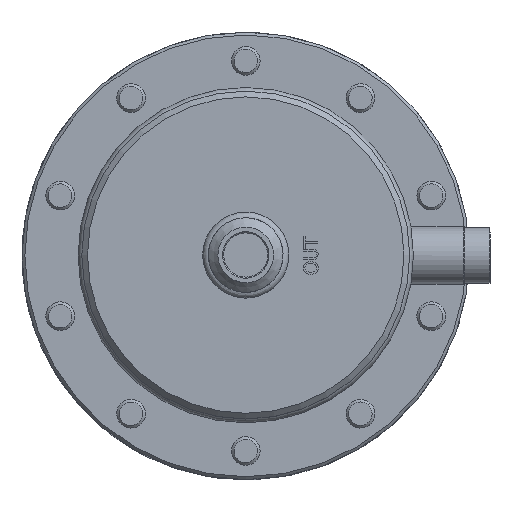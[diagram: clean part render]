
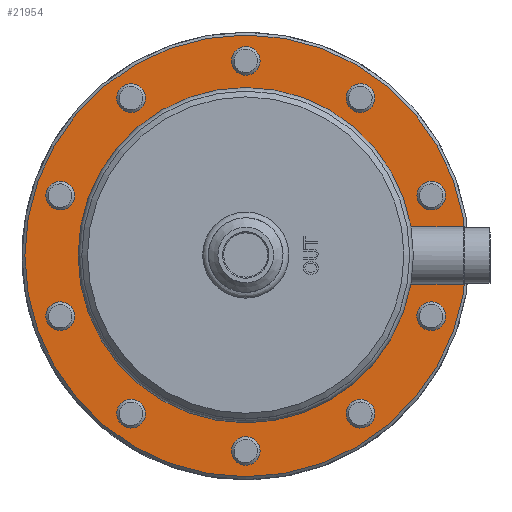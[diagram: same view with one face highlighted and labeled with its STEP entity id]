
A CAD part, top view. The second image highlights one B-rep face of the part: STEP entity #21954.
In plain terms, the highlighted planar face has unit normal (0, 0, 1).
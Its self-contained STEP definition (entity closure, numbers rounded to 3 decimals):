
#1150=CIRCLE('',#23394,58.207);
#1186=CIRCLE('',#23443,5.);
#1207=CIRCLE('',#23491,5.);
#1228=CIRCLE('',#23539,5.);
#1249=CIRCLE('',#23587,5.);
#1270=CIRCLE('',#23635,5.);
#1291=CIRCLE('',#23683,5.);
#1312=CIRCLE('',#23731,5.);
#1333=CIRCLE('',#23779,5.);
#1354=CIRCLE('',#23827,5.);
#1404=CIRCLE('',#23939,5.);
#1420=CIRCLE('',#23980,77.);
#4869=FACE_BOUND('',#7718,.T.);
#4870=FACE_BOUND('',#7719,.T.);
#4871=FACE_BOUND('',#7720,.T.);
#4872=FACE_BOUND('',#7721,.T.);
#4873=FACE_BOUND('',#7722,.T.);
#4874=FACE_BOUND('',#7723,.T.);
#4875=FACE_BOUND('',#7724,.T.);
#4876=FACE_BOUND('',#7725,.T.);
#4877=FACE_BOUND('',#7726,.T.);
#4878=FACE_BOUND('',#7727,.T.);
#4879=FACE_BOUND('',#7728,.T.);
#6164=FACE_OUTER_BOUND('',#7717,.T.);
#7717=EDGE_LOOP('',(#19915));
#7718=EDGE_LOOP('',(#19916));
#7719=EDGE_LOOP('',(#19917));
#7720=EDGE_LOOP('',(#19918));
#7721=EDGE_LOOP('',(#19919));
#7722=EDGE_LOOP('',(#19920));
#7723=EDGE_LOOP('',(#19921));
#7724=EDGE_LOOP('',(#19922));
#7725=EDGE_LOOP('',(#19923));
#7726=EDGE_LOOP('',(#19924));
#7727=EDGE_LOOP('',(#19925));
#7728=EDGE_LOOP('',(#19926));
#10070=VERTEX_POINT('',#42643);
#10101=VERTEX_POINT('',#42723);
#10132=VERTEX_POINT('',#42850);
#10163=VERTEX_POINT('',#42977);
#10194=VERTEX_POINT('',#43104);
#10225=VERTEX_POINT('',#43231);
#10256=VERTEX_POINT('',#43358);
#10287=VERTEX_POINT('',#43485);
#10318=VERTEX_POINT('',#43612);
#10349=VERTEX_POINT('',#43739);
#10408=VERTEX_POINT('',#43958);
#10436=VERTEX_POINT('',#44075);
#13088=EDGE_CURVE('',#10070,#10070,#1150,.T.);
#13124=EDGE_CURVE('',#10101,#10101,#1186,.T.);
#13169=EDGE_CURVE('',#10132,#10132,#1207,.T.);
#13214=EDGE_CURVE('',#10163,#10163,#1228,.T.);
#13259=EDGE_CURVE('',#10194,#10194,#1249,.T.);
#13304=EDGE_CURVE('',#10225,#10225,#1270,.T.);
#13349=EDGE_CURVE('',#10256,#10256,#1291,.T.);
#13394=EDGE_CURVE('',#10287,#10287,#1312,.T.);
#13439=EDGE_CURVE('',#10318,#10318,#1333,.T.);
#13484=EDGE_CURVE('',#10349,#10349,#1354,.T.);
#13558=EDGE_CURVE('',#10408,#10408,#1404,.T.);
#13598=EDGE_CURVE('',#10436,#10436,#1420,.T.);
#19915=ORIENTED_EDGE('',*,*,#13598,.F.);
#19916=ORIENTED_EDGE('',*,*,#13088,.T.);
#19917=ORIENTED_EDGE('',*,*,#13124,.T.);
#19918=ORIENTED_EDGE('',*,*,#13169,.T.);
#19919=ORIENTED_EDGE('',*,*,#13214,.T.);
#19920=ORIENTED_EDGE('',*,*,#13259,.T.);
#19921=ORIENTED_EDGE('',*,*,#13304,.T.);
#19922=ORIENTED_EDGE('',*,*,#13349,.T.);
#19923=ORIENTED_EDGE('',*,*,#13394,.T.);
#19924=ORIENTED_EDGE('',*,*,#13439,.T.);
#19925=ORIENTED_EDGE('',*,*,#13484,.T.);
#19926=ORIENTED_EDGE('',*,*,#13558,.T.);
#20669=PLANE('',#23981);
#21954=ADVANCED_FACE('',(#6164,#4869,#4870,#4871,#4872,#4873,#4874,#4875,
#4876,#4877,#4878,#4879),#20669,.F.);
#23394=AXIS2_PLACEMENT_3D('',#42644,#28188,#28189);
#23443=AXIS2_PLACEMENT_3D('',#42724,#28286,#28287);
#23491=AXIS2_PLACEMENT_3D('',#42851,#28394,#28395);
#23539=AXIS2_PLACEMENT_3D('',#42978,#28502,#28503);
#23587=AXIS2_PLACEMENT_3D('',#43105,#28610,#28611);
#23635=AXIS2_PLACEMENT_3D('',#43232,#28718,#28719);
#23683=AXIS2_PLACEMENT_3D('',#43359,#28826,#28827);
#23731=AXIS2_PLACEMENT_3D('',#43486,#28934,#28935);
#23779=AXIS2_PLACEMENT_3D('',#43613,#29042,#29043);
#23827=AXIS2_PLACEMENT_3D('',#43740,#29150,#29151);
#23939=AXIS2_PLACEMENT_3D('',#43959,#29386,#29387);
#23980=AXIS2_PLACEMENT_3D('',#44076,#29480,#29481);
#23981=AXIS2_PLACEMENT_3D('',#44077,#29482,#29483);
#28188=DIRECTION('center_axis',(0.,0.,
-1.));
#28189=DIRECTION('ref_axis',(-1.,0.,0.));
#28286=DIRECTION('center_axis',(0.,0.,
-1.));
#28287=DIRECTION('ref_axis',(0.588,0.809,0.));
#28394=DIRECTION('center_axis',(0.,0.,
-1.));
#28395=DIRECTION('ref_axis',(0.951,0.309,0.));
#28502=DIRECTION('center_axis',(0.,0.,
-1.));
#28503=DIRECTION('ref_axis',(0.951,-0.309,0.));
#28610=DIRECTION('center_axis',(0.,0.,
-1.));
#28611=DIRECTION('ref_axis',(0.588,-0.809,0.));
#28718=DIRECTION('center_axis',(0.,0.,
-1.));
#28719=DIRECTION('ref_axis',(0.,-1.,0.));
#28826=DIRECTION('center_axis',(0.,0.,
-1.));
#28827=DIRECTION('ref_axis',(-0.588,-0.809,0.));
#28934=DIRECTION('center_axis',(0.,0.,
-1.));
#28935=DIRECTION('ref_axis',(-0.951,-0.309,0.));
#29042=DIRECTION('center_axis',(0.,0.,
-1.));
#29043=DIRECTION('ref_axis',(-0.951,0.309,0.));
#29150=DIRECTION('center_axis',(0.,0.,
-1.));
#29151=DIRECTION('ref_axis',(-0.588,0.809,0.));
#29386=DIRECTION('center_axis',(0.,0.,
-1.));
#29387=DIRECTION('ref_axis',(0.,1.,0.));
#29480=DIRECTION('center_axis',(0.,0.,
-1.));
#29481=DIRECTION('ref_axis',(0.,-1.,0.));
#29482=DIRECTION('center_axis',(0.,0.,
-1.));
#29483=DIRECTION('ref_axis',(0.,-1.,0.));
#42643=CARTESIAN_POINT('',(58.207,0.,29.));
#42644=CARTESIAN_POINT('Origin',(0.,0.,
29.));
#42723=CARTESIAN_POINT('',(61.733,-25.058,29.));
#42724=CARTESIAN_POINT('Origin',(64.672,-21.013,29.));
#42850=CARTESIAN_POINT('',(35.214,-56.558,29.));
#42851=CARTESIAN_POINT('Origin',(39.969,-55.013,29.));
#42977=CARTESIAN_POINT('',(-4.755,-66.455,29.));
#42978=CARTESIAN_POINT('Origin',(0.,-68.,
29.));
#43104=CARTESIAN_POINT('',(-42.908,-50.968,29.));
#43105=CARTESIAN_POINT('Origin',(-39.969,-55.013,29.));
#43231=CARTESIAN_POINT('',(-64.672,-16.013,29.));
#43232=CARTESIAN_POINT('Origin',(-64.672,-21.013,29.));
#43358=CARTESIAN_POINT('',(-61.733,25.058,29.));
#43359=CARTESIAN_POINT('Origin',(-64.672,21.013,29.));
#43485=CARTESIAN_POINT('',(-35.214,56.558,29.));
#43486=CARTESIAN_POINT('Origin',(-39.969,55.013,29.));
#43612=CARTESIAN_POINT('',(4.755,66.455,29.));
#43613=CARTESIAN_POINT('Origin',(0.,68.,
29.));
#43739=CARTESIAN_POINT('',(42.908,50.968,29.));
#43740=CARTESIAN_POINT('Origin',(39.969,55.013,29.));
#43958=CARTESIAN_POINT('',(64.672,16.013,29.));
#43959=CARTESIAN_POINT('Origin',(64.672,21.013,29.));
#44075=CARTESIAN_POINT('',(0.,77.,29.));
#44076=CARTESIAN_POINT('Origin',(0.,0.,
29.));
#44077=CARTESIAN_POINT('Origin',(0.,0.,
29.));
